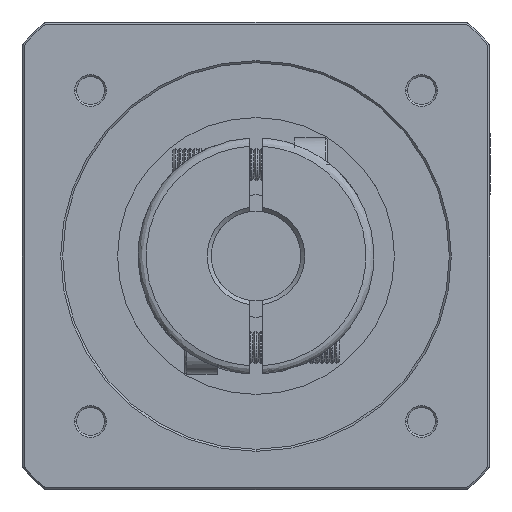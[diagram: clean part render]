
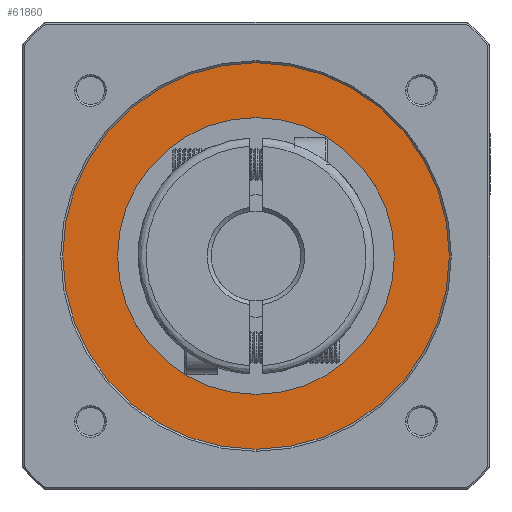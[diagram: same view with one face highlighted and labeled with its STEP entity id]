
A CAD part, front view. The second image highlights one B-rep face of the part: STEP entity #61860.
In plain terms, the highlighted planar face has unit normal (0, 1, 0).
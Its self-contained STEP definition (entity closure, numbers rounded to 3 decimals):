
#142 = AXIS2_PLACEMENT_3D ( 'NONE', #8585, #63151, #16415 ) ;
#2401 = VERTEX_POINT ( 'NONE', #66302 ) ;
#8585 = CARTESIAN_POINT ( 'NONE',  ( 0., -169.111, 0. ) ) ;
#9156 = CIRCLE ( 'NONE', #53255, 34. ) ;
#11238 = CARTESIAN_POINT ( 'NONE',  ( -48.07, -169.111, -48.07 ) ) ;
#15426 = CARTESIAN_POINT ( 'NONE',  ( 0., -169.111, 0. ) ) ;
#16415 = DIRECTION ( 'NONE',  ( 0., 0., 1. ) ) ;
#17039 = CARTESIAN_POINT ( 'NONE',  ( 0., -169.111, -34. ) ) ;
#17097 = DIRECTION ( 'NONE',  ( 0., -1., 0. ) ) ;
#17474 = EDGE_LOOP ( 'NONE', ( #81696, #38493 ) ) ;
#17794 = CARTESIAN_POINT ( 'NONE',  ( 0., -169.111, 34. ) ) ;
#19038 = DIRECTION ( 'NONE',  ( 1., 0., 0. ) ) ;
#23233 = DIRECTION ( 'NONE',  ( 0., 0., -1. ) ) ;
#23475 = AXIS2_PLACEMENT_3D ( 'NONE', #15426, #69998, #23233 ) ;
#23604 = AXIS2_PLACEMENT_3D ( 'NONE', #11238, #65789, #19038 ) ;
#30373 = CARTESIAN_POINT ( 'NONE',  ( 0., -169.111, 0. ) ) ;
#31306 = ORIENTED_EDGE ( 'NONE', *, *, #78619, .T. ) ;
#31537 = CIRCLE ( 'NONE', #142, 34. ) ;
#38211 = DIRECTION ( 'NONE',  ( 0., 0., -1. ) ) ;
#38493 = ORIENTED_EDGE ( 'NONE', *, *, #91726, .T. ) ;
#40461 = CIRCLE ( 'NONE', #23475, 47.5 ) ;
#45707 = EDGE_LOOP ( 'NONE', ( #31306, #66643 ) ) ;
#46998 = AXIS2_PLACEMENT_3D ( 'NONE', #30373, #85006, #38211 ) ;
#53255 = AXIS2_PLACEMENT_3D ( 'NONE', #63869, #17097, #71678 ) ;
#55329 = VERTEX_POINT ( 'NONE', #17794 ) ;
#59601 = EDGE_CURVE ( 'NONE', #90492, #2401, #40461, .T. ) ;
#61860 = ADVANCED_FACE ( 'NONE', ( #93852, #96293 ), #81159, .F. ) ;
#63151 = DIRECTION ( 'NONE',  ( 0., -1., 0. ) ) ;
#63869 = CARTESIAN_POINT ( 'NONE',  ( 0., -169.111, 0. ) ) ;
#64346 = EDGE_CURVE ( 'NONE', #55329, #99602, #9156, .T. ) ;
#65789 = DIRECTION ( 'NONE',  ( 0., -1., 0. ) ) ;
#66302 = CARTESIAN_POINT ( 'NONE',  ( 0., -169.111, -47.5 ) ) ;
#66643 = ORIENTED_EDGE ( 'NONE', *, *, #59601, .T. ) ;
#69998 = DIRECTION ( 'NONE',  ( 0., 1., 0. ) ) ;
#71678 = DIRECTION ( 'NONE',  ( 0., 0., 1. ) ) ;
#78619 = EDGE_CURVE ( 'NONE', #2401, #90492, #90083, .T. ) ;
#81159 = PLANE ( 'NONE',  #23604 ) ;
#81696 = ORIENTED_EDGE ( 'NONE', *, *, #64346, .T. ) ;
#85006 = DIRECTION ( 'NONE',  ( 0., 1., 0. ) ) ;
#90083 = CIRCLE ( 'NONE', #46998, 47.5 ) ;
#90492 = VERTEX_POINT ( 'NONE', #97245 ) ;
#91726 = EDGE_CURVE ( 'NONE', #99602, #55329, #31537, .T. ) ;
#93852 = FACE_BOUND ( 'NONE', #17474, .T. ) ;
#96293 = FACE_OUTER_BOUND ( 'NONE', #45707, .T. ) ;
#97245 = CARTESIAN_POINT ( 'NONE',  ( 0., -169.111, 47.5 ) ) ;
#99602 = VERTEX_POINT ( 'NONE', #17039 ) ;
